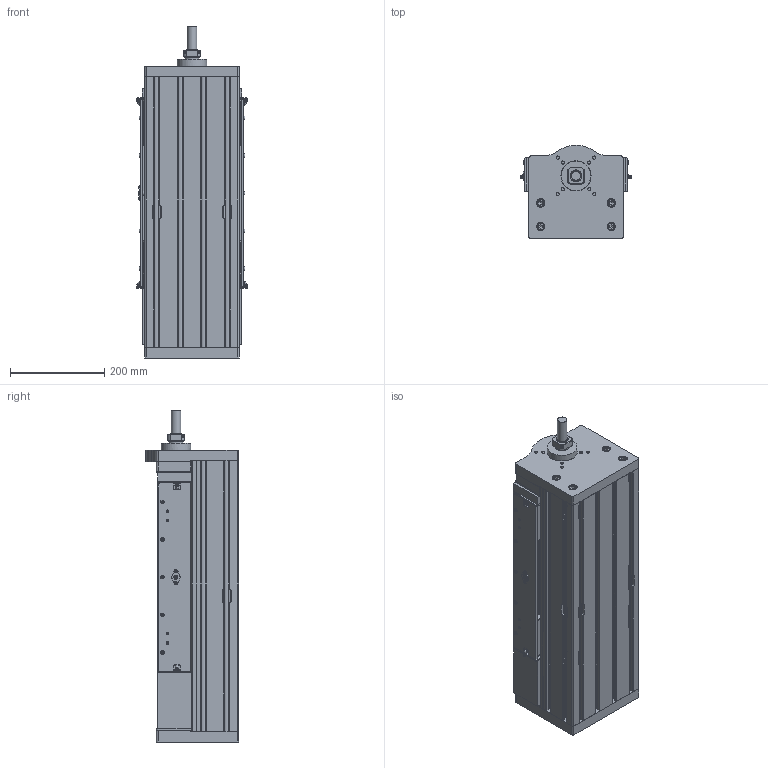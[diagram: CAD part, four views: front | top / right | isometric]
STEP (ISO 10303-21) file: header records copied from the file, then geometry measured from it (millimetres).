
FILE_DESCRIPTION(/* description */ ('Asse VU-K200LE-30H-32-S'),/* implementation_level */ '2;1');
FILE_NAME(/* name */ 'VU-K200LE-30H-32-S-CLIENTE.stp',/* time_stamp */ '2025-02-06T09:32:33+01:00',/* author */ ('davide.cavedon'),/* organization */ (''),/* preprocessor_version */ 'ST-DEVELOPER v20',/* originating_system */ 'Autodesk Inventor 2024',/* authorisation */ '');
FILE_SCHEMA (('CONFIG_CONTROL_DESIGN'));
Products named in the file (5): VU-K200LE-30H-32-S-CLIENTE; C_VU-K200LE-30H-32-S-CLIENTE-001; C_VU-K200SE-30H-32-N-CLIENTE-003; C_VU-K200SE-30H-32-N-CLIENTE-004; C_VU-K200LE-30H-32-N-CLIENTE-002
Assembly tree (4 placements, depth 2):
  VU-K200LE-30H-32-S-CLIENTE
    C_VU-K200LE-30H-32-S-CLIENTE-001
    C_VU-K200SE-30H-32-N-CLIENTE-003
    C_VU-K200SE-30H-32-N-CLIENTE-004
    C_VU-K200LE-30H-32-N-CLIENTE-002
Bounding box: 235.69 x 197.5 x 705 mm (x, y, z)
Volume: 19233943.8 mm3; surface area: 1704038.6 mm2
Topology: 10 solids, 84 shells, 3930 faces, 10447 edges, 6776 vertices
Faces by surface type: plane 2277, cylinder 1053, cone 445, torus 125, bspline 24, sphere 6
Full cylindrical faces by diameter (mm): 0.5 x4, 1 x8, 2 x5, 2.459 x2, 3 x10, 3.242 x32, 3.5 x2, 4 x10, 4.134 x8, 4.135 x2, 4.15 x2, 4.2 x2, 4.5 x11, 4.917 x2, 5 x14, 5.3 x2, 5.5 x8, 5.7 x2, 6 x16, 6.2 x2, 6.647 x52, 7.3 x8, 7.6 x10, 7.847 x4, 8 x30, 9 x22, 9.3 x2, 13 x20, 14 x20, 16 x8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
Entity records: 126920 total; most frequent: CARTESIAN_POINT 25723, ORIENTED_EDGE 20686, DIRECTION 20168, EDGE_CURVE 10343, AXIS2_PLACEMENT_3D 6889, VERTEX_POINT 6776, LINE 6390, VECTOR 6390
